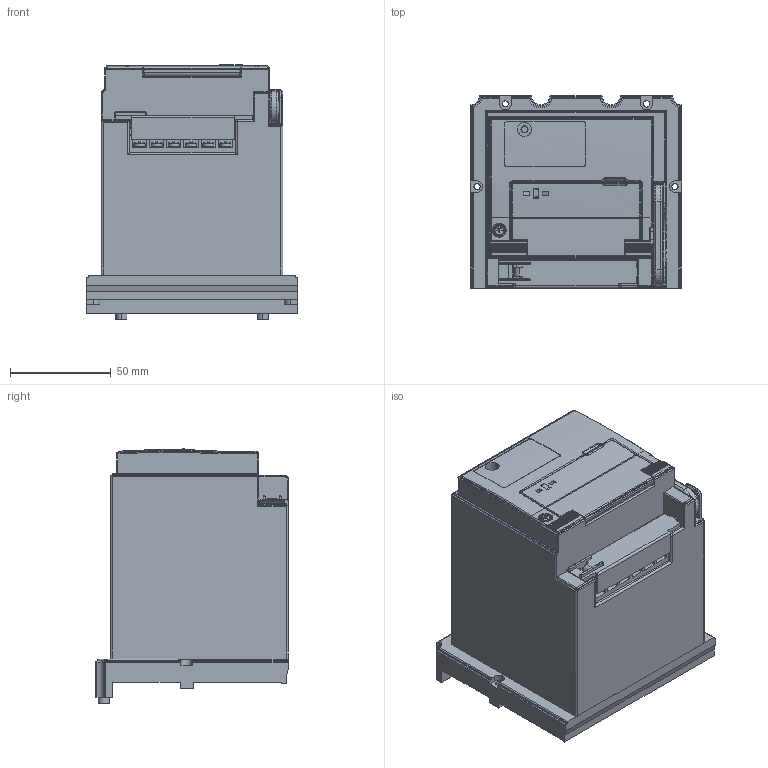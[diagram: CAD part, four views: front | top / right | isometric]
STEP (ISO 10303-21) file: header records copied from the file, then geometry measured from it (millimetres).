
FILE_DESCRIPTION((''),'2;1');
FILE_NAME('25000_ASM','2026-06-15T16:50:08',('gaoleixiao'),(''),'CREO PARAMETRIC BY PTC INC, 2020354','CREO PARAMETRIC BY PTC INC, 2020354','');
FILE_SCHEMA(('CONFIG_CONTROL_DESIGN'));
Products named in the file (18): WL8_024_748_THM5-200_2; SY8_300_004_1; WL8_253_081_THM5-200_1; WL8_300_068_THM5-000_2; SY5_253_002_1; WL8_024__0_2; THM5-200_2; WL8_235-THM5-125_1; 3WL8_261_161__049000_2; WL8_310_246_THM5-200_2; SY8_100_014_1; WL8_261_158_THM5-200_2; SY8_260_000_1; 2SY8_100_013_1; ASM0015_ASM_1_ASM; 0000315601; GB_T9074_7-M3X10; 25000_ASM
Assembly tree (23 placements, depth 3):
  25000_ASM
    ASM0015_ASM_1_ASM
      WL8_024_748_THM5-200_2
      SY8_300_004_1
      WL8_253_081_THM5-200_1
      WL8_300_068_THM5-000_2
      SY5_253_002_1
      WL8_024__0_2
      THM5-200_2
      WL8_235-THM5-125_1
      3WL8_261_161__049000_2
      WL8_310_246_THM5-200_2
      SY8_100_014_1
      WL8_261_158_THM5-200_2
      SY8_260_000_1  x2
      2SY8_100_013_1
    0000315601
    GB_T9074_7-M3X10  x6
Bounding box: 105 x 95.35 x 126.26 mm (x, y, z)
Volume: 190659.6 mm3; surface area: 199915.4 mm2
Topology: 22 solids, 28 shells, 2936 faces, 7919 edges, 5076 vertices
Faces by surface type: plane 1738, cylinder 775, extrusion 181, torus 98, sphere 82, cone 32, bspline 30
Entity records: 97214 total; most frequent: CARTESIAN_POINT 26424, ORIENTED_EDGE 14958, DIRECTION 14095, EDGE_CURVE 7481, VECTOR 5395, LINE 5214, VERTEX_POINT 4832, AXIS2_PLACEMENT_3D 4350
